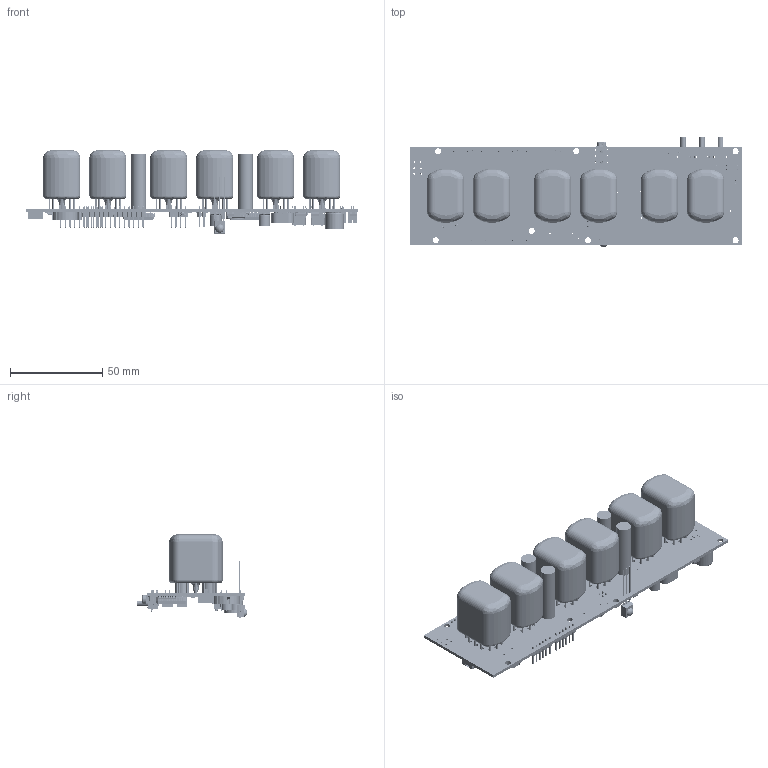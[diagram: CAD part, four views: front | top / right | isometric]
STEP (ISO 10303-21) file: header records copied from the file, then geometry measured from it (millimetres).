
FILE_DESCRIPTION(('Open CASCADE Model'),'2;1');
FILE_NAME('Open CASCADE Shape Model','2017-05-30T21:37:13',('Author'),( 'Open CASCADE'),'Open CASCADE STEP processor 6.8','Open CASCADE 6.8' ,'Unknown');
FILE_SCHEMA(('AUTOMOTIVE_DESIGN { 1 0 10303 214 1 1 1 1 }'));
Length unit declared in the file: millimetre
Products named in the file (177): PCB; Board; C5; User_Library-Chip_Cap_MLCC_0805_(2012)_A; R5; User_Library-Chip_Resistor2; R6; R7; R8; R9; R10; R4; R3; R11; R19; R27; R28; R12; R20; R29; R13; R21; R30; R14; R22; R31; R15; R23; R32; R16; R24; D1; User_Library-KAA-3528; D6; D5; D4; D3; D2; C3; C4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
Assembly tree (291 placements, depth 4):
  PCB
    Board
    C5
      User_Library-Chip_Cap_MLCC_0805_(2012)_A
    R5
      User_Library-Chip_Resistor2
    R6
      User_Library-Chip_Resistor2
    R7
      User_Library-Chip_Resistor2
    R8
      User_Library-Chip_Resistor2
    R9
      User_Library-Chip_Resistor2
    R10
      User_Library-Chip_Resistor2
    R4
      User_Library-Chip_Resistor2
    R3
      User_Library-Chip_Resistor2
    R11
      User_Library-Chip_Resistor2
    R19
      User_Library-Chip_Resistor2
    R27
      User_Library-Chip_Resistor2
    R28
      User_Library-Chip_Resistor2
    R12
      User_Library-Chip_Resistor2
    R20
      User_Library-Chip_Resistor2
    R29
      User_Library-Chip_Resistor2
    R13
      User_Library-Chip_Resistor2
    R21
      User_Library-Chip_Resistor2
    R30
      User_Library-Chip_Resistor2
    R14
      User_Library-Chip_Resistor2
    R22
      User_Library-Chip_Resistor2
    R31
      User_Library-Chip_Resistor2
    R15
      User_Library-Chip_Resistor2
    R23
      User_Library-Chip_Resistor2
    R32
      User_Library-Chip_Resistor2
    R16
      User_Library-Chip_Resistor2
    R24
      User_Library-Chip_Resistor2
    D1
      User_Library-KAA-3528
    D6
      User_Library-KAA-3528
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Bounding box: 180 x 59.93 x 45.09 mm (x, y, z)
Volume: 114692.5 mm3; surface area: 67165.7 mm2
Topology: 212 solids, 288 shells, 11742 faces, 30199 edges, 18609 vertices
Faces by surface type: plane 6846, cylinder 3265, bspline 946, sphere 411, cone 232, torus 22, revolution 20
Full cylindrical faces by diameter (mm): 0.8 x13, 0.9 x63, 1.1 x7, 1.3 x12, 1.4 x1, 1.5 x2, 1.6 x72, 3.3 x7, 4 x6
Entity records: 196667 total; most frequent: CARTESIAN_POINT 48777, ORIENTED_EDGE 27541, DIRECTION 24837, EDGE_CURVE 13806, LINE 9438, VECTOR 9438, VERTEX_POINT 9029, AXIS2_PLACEMENT_3D 7697
